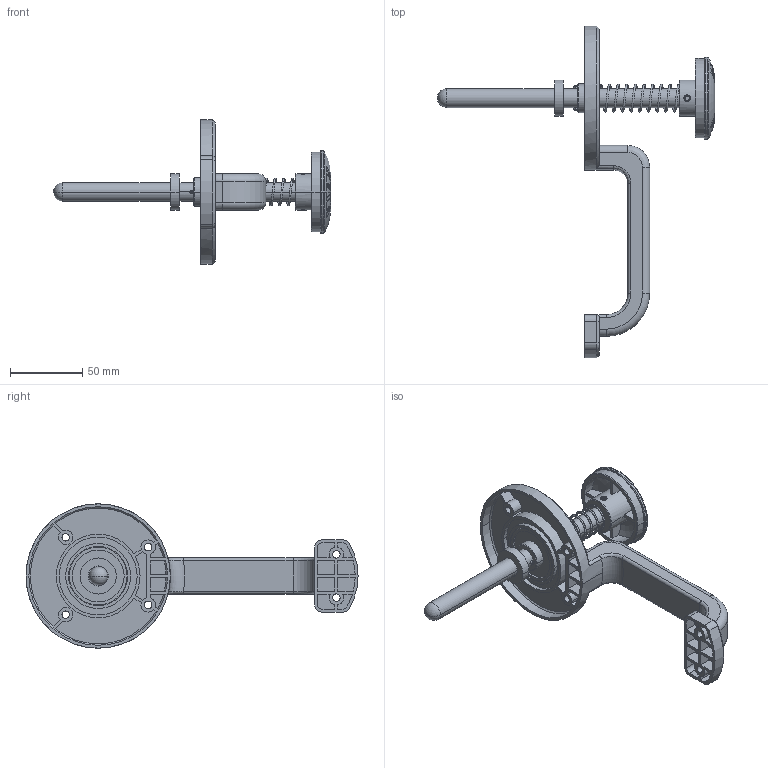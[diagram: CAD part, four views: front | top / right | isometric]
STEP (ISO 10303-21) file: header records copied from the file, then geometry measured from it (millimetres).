
FILE_DESCRIPTION (( 'STEP AP214' ), '1' );
FILE_NAME ('EB-30P-100.STEP', '2020-03-18T03:22:46', ( '' ), ( '' ), 'SwSTEP 2.0', 'SolidWorks 2019', '' );
FILE_SCHEMA (( 'AUTOMOTIVE_DESIGN' ));
Length unit declared in the file: millimetre
Products named in the file (1): EB-30P-100
Bounding box: 192 x 230 x 100 mm (x, y, z)
Volume: 149244.2 mm3; surface area: 66892.4 mm2
Topology: 1 solids, 1 shells, 479 faces, 1237 edges, 805 vertices
Faces by surface type: plane 192, cylinder 131, bspline 82, cone 37, torus 35, sphere 2
Entity records: 22750 total; most frequent: CARTESIAN_POINT 11613, ORIENTED_EDGE 2466, DIRECTION 2051, EDGE_CURVE 1233, VERTEX_POINT 803, AXIS2_PLACEMENT_3D 762, EDGE_LOOP 538, LINE 527
